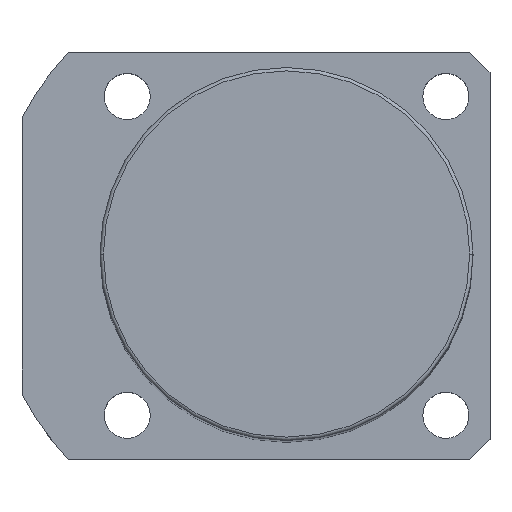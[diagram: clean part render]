
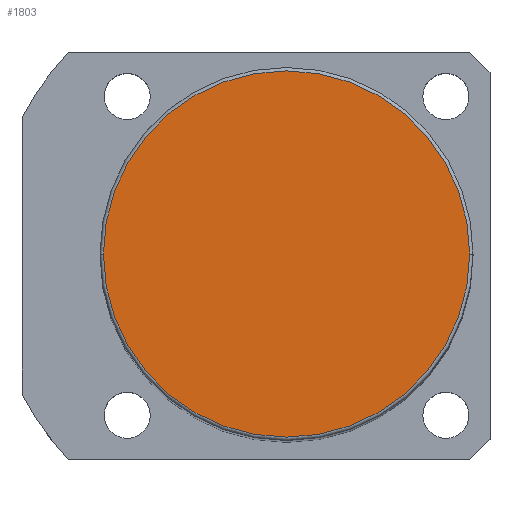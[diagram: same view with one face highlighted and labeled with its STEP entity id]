
A CAD part, top view. The second image highlights one B-rep face of the part: STEP entity #1803.
In plain terms, the highlighted planar face has unit normal (0, 0, 1).
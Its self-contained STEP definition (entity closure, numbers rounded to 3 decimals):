
#5 = ORIENTED_EDGE ( 'NONE', *, *, #1096, .T. ) ;
#129 = CARTESIAN_POINT ( 'NONE',  ( 0., 0., 166. ) ) ;
#268 = CIRCLE ( 'NONE', #1403, 27. ) ;
#428 = VERTEX_POINT ( 'NONE', #1688 ) ;
#450 = CARTESIAN_POINT ( 'NONE',  ( 0., 0., 166. ) ) ;
#484 = ORIENTED_EDGE ( 'NONE', *, *, #1670, .T. ) ;
#578 = AXIS2_PLACEMENT_3D ( 'NONE', #129, #1119, #1413 ) ;
#590 = EDGE_LOOP ( 'NONE', ( #5, #484 ) ) ;
#697 = DIRECTION ( 'NONE',  ( 0., 0., 1. ) ) ;
#996 = DIRECTION ( 'NONE',  ( 1., 0., 0. ) ) ;
#1038 = FACE_OUTER_BOUND ( 'NONE', #590, .T. ) ;
#1096 = EDGE_CURVE ( 'NONE', #428, #1544, #268, .T. ) ;
#1119 = DIRECTION ( 'NONE',  ( 0., 0., 1. ) ) ;
#1131 = PLANE ( 'NONE',  #1809 ) ;
#1330 = CIRCLE ( 'NONE', #578, 27. ) ;
#1369 = CARTESIAN_POINT ( 'NONE',  ( -27., 0., 166. ) ) ;
#1403 = AXIS2_PLACEMENT_3D ( 'NONE', #1529, #1780, #1770 ) ;
#1413 = DIRECTION ( 'NONE',  ( 1., 0., 0. ) ) ;
#1529 = CARTESIAN_POINT ( 'NONE',  ( 0., 0., 166. ) ) ;
#1544 = VERTEX_POINT ( 'NONE', #1369 ) ;
#1670 = EDGE_CURVE ( 'NONE', #1544, #428, #1330, .T. ) ;
#1688 = CARTESIAN_POINT ( 'NONE',  ( 27., 0., 166. ) ) ;
#1770 = DIRECTION ( 'NONE',  ( 1., 0., 0. ) ) ;
#1780 = DIRECTION ( 'NONE',  ( 0., 0., 1. ) ) ;
#1803 = ADVANCED_FACE ( 'NONE', ( #1038 ), #1131, .T. ) ;
#1809 = AXIS2_PLACEMENT_3D ( 'NONE', #450, #697, #996 ) ;
